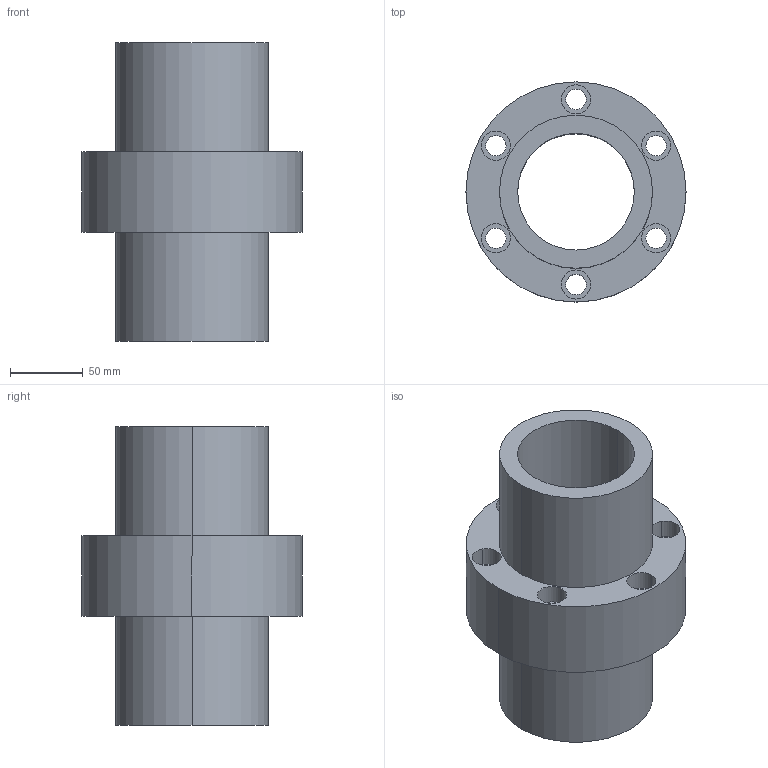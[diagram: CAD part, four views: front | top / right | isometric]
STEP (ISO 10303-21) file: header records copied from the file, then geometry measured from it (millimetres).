
FILE_DESCRIPTION((''),'2;1');
FILE_NAME('80-10T4','2008-04-07T',('yanyu'),(''),'PRO/ENGINEER BY PARAMETRIC TECHNOLOGY CORPORATION, 2005070','PRO/ENGINEER BY PARAMETRIC TECHNOLOGY CORPORATION, 2005070','');
FILE_SCHEMA(('CONFIG_CONTROL_DESIGN'));
Length unit declared in the file: millimetre
Products named in the file (1): 80-10T4
Bounding box: 151 x 151 x 205 mm (x, y, z)
Volume: 1190045.5 mm3; surface area: 166992.9 mm2
Topology: 1 solids, 1 shells, 42 faces, 100 edges, 68 vertices
Faces by surface type: cylinder 32, plane 10
Entity records: 1330 total; most frequent: DIRECTION 252, CARTESIAN_POINT 210, ORIENTED_EDGE 200, AXIS2_PLACEMENT_3D 110, EDGE_CURVE 100, VERTEX_POINT 68, CIRCLE 68, EDGE_LOOP 64
